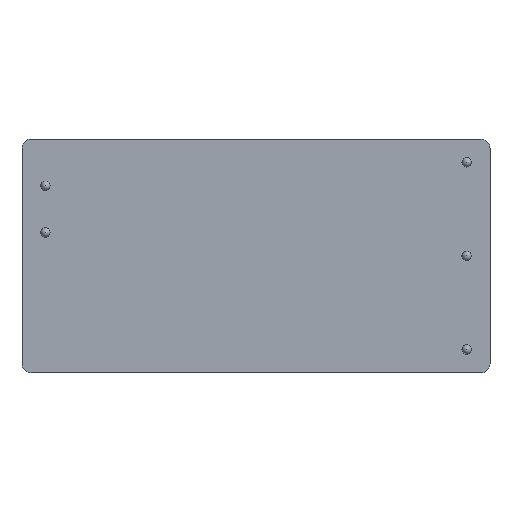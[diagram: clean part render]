
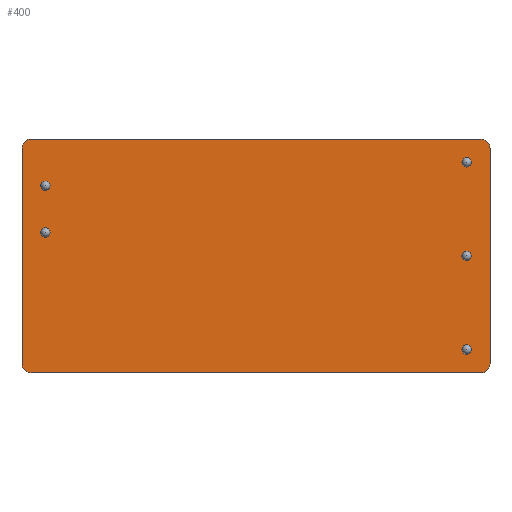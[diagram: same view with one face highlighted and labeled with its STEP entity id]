
A CAD part, top view. The second image highlights one B-rep face of the part: STEP entity #400.
In plain terms, the highlighted planar face has unit normal (0, 0, 1).
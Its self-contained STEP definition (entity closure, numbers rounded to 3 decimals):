
#13=ELLIPSE($,#449,1.,1.);
#14=ELLIPSE($,#452,1.,1.);
#15=ELLIPSE($,#456,1.,1.);
#16=ELLIPSE($,#458,1.,1.);
#28=LINE($,#686,#48);
#31=LINE($,#694,#51);
#35=LINE($,#707,#55);
#36=LINE($,#709,#56);
#48=VECTOR($,#569,23.4);
#51=VECTOR($,#578,48.8);
#55=VECTOR($,#594,23.4);
#56=VECTOR($,#597,48.8);
#63=PLANE($,#461);
#71=FACE_BOUND($,#157,.T.);
#72=FACE_BOUND($,#158,.T.);
#73=FACE_BOUND($,#159,.T.);
#74=FACE_BOUND($,#160,.T.);
#75=FACE_BOUND($,#161,.T.);
#119=FACE_OUTER_BOUND($,#156,.T.);
#156=EDGE_LOOP($,(#349,#350,#351,#352,#353,#354,#355,#356));
#157=EDGE_LOOP($,(#357));
#158=EDGE_LOOP($,(#358));
#159=EDGE_LOOP($,(#359));
#160=EDGE_LOOP($,(#360));
#161=EDGE_LOOP($,(#361));
#163=CIRCLE($,#407,0.5);
#165=CIRCLE($,#411,0.5);
#167=CIRCLE($,#415,0.5);
#169=CIRCLE($,#419,0.5);
#171=CIRCLE($,#423,0.5);
#187=VERTEX_POINT($,#605);
#189=VERTEX_POINT($,#611);
#191=VERTEX_POINT($,#617);
#193=VERTEX_POINT($,#623);
#195=VERTEX_POINT($,#629);
#210=VERTEX_POINT($,#678);
#211=VERTEX_POINT($,#680);
#212=VERTEX_POINT($,#684);
#213=VERTEX_POINT($,#688);
#214=VERTEX_POINT($,#692);
#215=VERTEX_POINT($,#697);
#216=VERTEX_POINT($,#701);
#217=VERTEX_POINT($,#703);
#219=EDGE_CURVE($,#187,#187,#163,.T.);
#221=EDGE_CURVE($,#189,#189,#165,.T.);
#223=EDGE_CURVE($,#191,#191,#167,.T.);
#225=EDGE_CURVE($,#193,#193,#169,.T.);
#227=EDGE_CURVE($,#195,#195,#171,.T.);
#251=EDGE_CURVE($,#210,#211,#13,.T.);
#254=EDGE_CURVE($,#212,#210,#28,.T.);
#256=EDGE_CURVE($,#213,#212,#14,.T.);
#258=EDGE_CURVE($,#214,#213,#31,.T.);
#260=EDGE_CURVE($,#215,#214,#15,.T.);
#262=EDGE_CURVE($,#216,#217,#16,.T.);
#264=EDGE_CURVE($,#217,#215,#35,.T.);
#265=EDGE_CURVE($,#211,#216,#36,.T.);
#349=ORIENTED_EDGE($,*,*,#251,.F.);
#350=ORIENTED_EDGE($,*,*,#254,.F.);
#351=ORIENTED_EDGE($,*,*,#256,.F.);
#352=ORIENTED_EDGE($,*,*,#258,.F.);
#353=ORIENTED_EDGE($,*,*,#260,.F.);
#354=ORIENTED_EDGE($,*,*,#264,.F.);
#355=ORIENTED_EDGE($,*,*,#262,.F.);
#356=ORIENTED_EDGE($,*,*,#265,.F.);
#357=ORIENTED_EDGE($,*,*,#221,.T.);
#358=ORIENTED_EDGE($,*,*,#227,.T.);
#359=ORIENTED_EDGE($,*,*,#225,.T.);
#360=ORIENTED_EDGE($,*,*,#223,.T.);
#361=ORIENTED_EDGE($,*,*,#219,.T.);
#400=ADVANCED_FACE($,(#119,#71,#72,#73,#74,#75),#63,.T.);
#407=AXIS2_PLACEMENT_3D($,#606,#470,#471);
#411=AXIS2_PLACEMENT_3D($,#612,#478,#479);
#415=AXIS2_PLACEMENT_3D($,#618,#486,#487);
#419=AXIS2_PLACEMENT_3D($,#624,#494,#495);
#423=AXIS2_PLACEMENT_3D($,#630,#502,#503);
#449=AXIS2_PLACEMENT_3D($,#681,#563,#564);
#452=AXIS2_PLACEMENT_3D($,#690,#573,#574);
#456=AXIS2_PLACEMENT_3D($,#699,#584,#585);
#458=AXIS2_PLACEMENT_3D($,#704,#589,#590);
#461=AXIS2_PLACEMENT_3D($,#710,#598,#599);
#470=DIRECTION('center_axis',(0.,0.,-1.));
#471=DIRECTION('ref_axis',(-1.,0.,0.));
#478=DIRECTION('center_axis',(0.,0.,-1.));
#479=DIRECTION('ref_axis',(-1.,0.,0.));
#486=DIRECTION('center_axis',(0.,0.,-1.));
#487=DIRECTION('ref_axis',(-1.,0.,0.));
#494=DIRECTION('center_axis',(0.,0.,-1.));
#495=DIRECTION('ref_axis',(-1.,0.,0.));
#502=DIRECTION('center_axis',(0.,0.,-1.));
#503=DIRECTION('ref_axis',(-1.,0.,0.));
#563=DIRECTION('center_axis',(0.,0.,-1.));
#564=DIRECTION('ref_axis',(0.838,-0.545,0.));
#569=DIRECTION($,(0.,-1.,0.));
#573=DIRECTION('center_axis',(0.,0.,-1.));
#574=DIRECTION('ref_axis',(0.838,0.545,0.));
#578=DIRECTION($,(1.,0.,0.));
#584=DIRECTION('center_axis',(0.,0.,-1.));
#585=DIRECTION('ref_axis',(-0.838,0.545,0.));
#589=DIRECTION('center_axis',(0.,0.,-1.));
#590=DIRECTION('ref_axis',(-0.838,-0.545,0.));
#594=DIRECTION($,(0.,1.,0.));
#597=DIRECTION($,(-1.,0.,0.));
#598=DIRECTION('center_axis',(0.,0.,1.));
#599=DIRECTION('ref_axis',(1.,0.,0.));
#605=CARTESIAN_POINT('',(23.36,-10.16,12.));
#606=CARTESIAN_POINT('Origin',(22.86,-10.16,12.));
#611=CARTESIAN_POINT('',(23.36,0.,12.));
#612=CARTESIAN_POINT('Origin',(22.86,0.,12.));
#617=CARTESIAN_POINT('',(23.36,10.16,12.));
#618=CARTESIAN_POINT('Origin',(22.86,10.16,12.));
#623=CARTESIAN_POINT('',(-22.36,7.62,12.));
#624=CARTESIAN_POINT('Origin',(-22.86,7.62,12.));
#629=CARTESIAN_POINT('',(-22.36,2.54,12.));
#630=CARTESIAN_POINT('Origin',(-22.86,2.54,12.));
#678=CARTESIAN_POINT('',(25.4,-11.7,12.));
#680=CARTESIAN_POINT('',(24.4,-12.7,12.));
#681=CARTESIAN_POINT('Origin',(24.4,-11.7,12.));
#684=CARTESIAN_POINT('',(25.4,11.7,12.));
#686=CARTESIAN_POINT($,(25.4,12.7,12.));
#688=CARTESIAN_POINT('',(24.4,12.7,12.));
#690=CARTESIAN_POINT('Origin',(24.4,11.7,12.));
#692=CARTESIAN_POINT('',(-24.4,12.7,12.));
#694=CARTESIAN_POINT($,(-25.4,12.7,12.));
#697=CARTESIAN_POINT('',(-25.4,11.7,12.));
#699=CARTESIAN_POINT('Origin',(-24.4,11.7,12.));
#701=CARTESIAN_POINT('',(-24.4,-12.7,12.));
#703=CARTESIAN_POINT('',(-25.4,-11.7,12.));
#704=CARTESIAN_POINT('Origin',(-24.4,-11.7,12.));
#707=CARTESIAN_POINT($,(-25.4,-12.7,12.));
#709=CARTESIAN_POINT($,(25.4,-12.7,12.));
#710=CARTESIAN_POINT('Origin',(0.,0.,12.));
